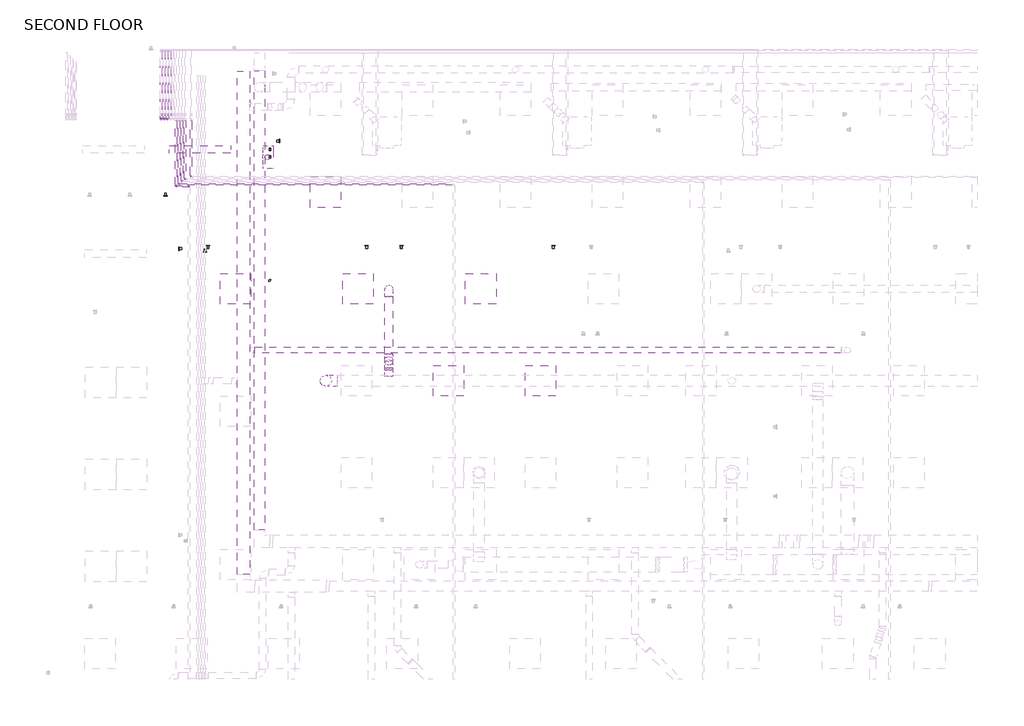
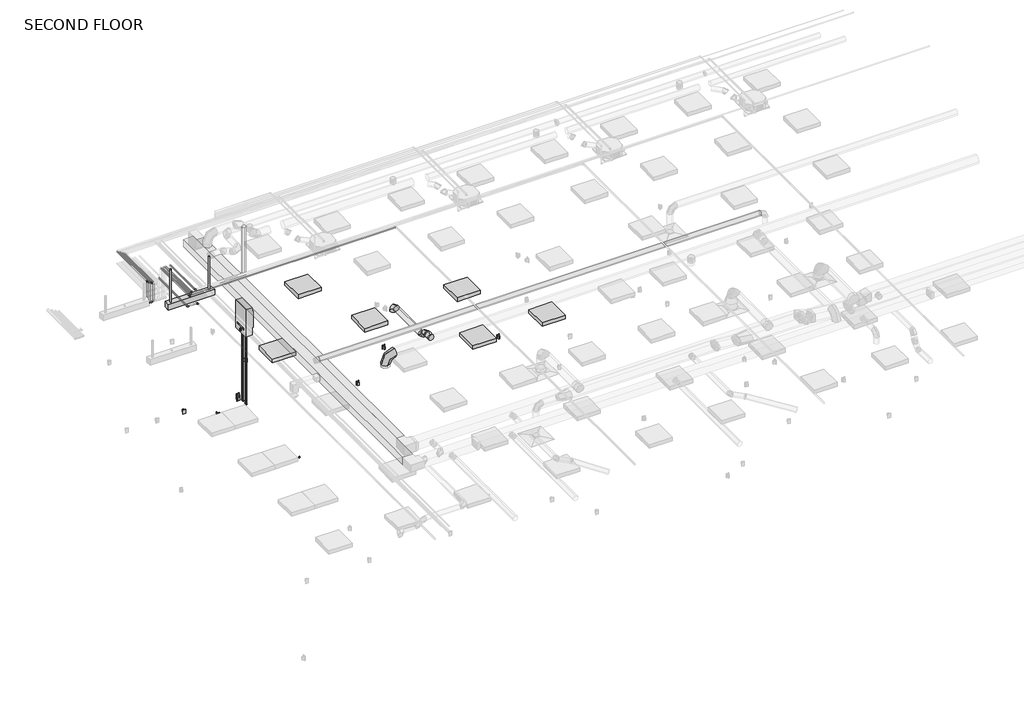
# One storey, part 7 of 12: 21 pipe segments, 15 pipe fittings, 8 duct segments, 7 light fixtures, 5 duct fittings, 5 proxies, 4 switching devices.
"""IFC4 building model written with IfcOpenShell, lengths in millimetres."""

from ifc_helpers import new_model, si_unit, point, frame, frame_2d, origin, place, context, project, spatial, polyline, circle_curve, trimmed, segment, composite_curve, outline, extrude, transform, mapped, element, save
from components import duplex_receptacle_countertop_10251bba, water_heater_tankless_0_6_gallon_c20ab9af, round_elbow_1_d_df495868, round_elbow_1_d_b37ad80b, round_elbow_1_d_9a27e954, round_takeoff_standard_533576aa, suspended_fluorescent_strip_non_hosted_strip_light_1x4_120v_f70b047a, troffer_corner_insert_2x2_3lamp_e67c7f8f, elbow_generic_standard_c06ac706, tee_generic_standard_c9cae54f, tee_generic_standard_d345b28c

model = new_model("IFC4")

# Units and contexts
model_context = context("Model", 3, world=origin())
ifc_project = project(units=[si_unit("LENGTHUNIT", "METRE", prefix="MILLI")], contexts=[model_context])

# Site, building, storey
site = spatial("IfcSite", under=ifc_project)
building = spatial("IfcBuilding", under=site)
storey = spatial("IfcBuildingStorey", under=building, Name="SECOND FLOOR", Elevation=34544.0)

# Proxies
placement = place(None, origin())
duplex_receptacle_countertop_shape = duplex_receptacle_countertop_10251bba(model_context)
element("IfcBuildingElementProxy", 1, Name="Duplex Receptacle : Standard", ObjectType="Duplex Receptacle : Standard", at=placement, inside=storey, context=model_context, shape_type="MappedRepresentation", body=[
    mapped(duplex_receptacle_countertop_shape, transform((-5631.4954607, 5845.9813735, 35001.2), x_axis=(0.0, 1.0, 0.0), y_axis=(0.0, 0.0, 1.0), z_axis=(1.0, 0.0, 0.0))),
])
element("IfcBuildingElementProxy", 2, Name="Duplex Receptacle : Standard", ObjectType="Duplex Receptacle : Standard", at=placement, inside=storey, context=model_context, shape_type="MappedRepresentation", body=[
    mapped(duplex_receptacle_countertop_shape, transform((-3895.4451899, 3763.3695005, 35001.2), x_axis=(-1.0, 0.0, 0.0), y_axis=(0.0, 0.0, 1.0), z_axis=(0.0, 1.0, 0.0))),
])
element("IfcBuildingElementProxy", 3, Name="Duplex Receptacle : Standard", ObjectType="Duplex Receptacle : Standard", at=placement, inside=storey, context=model_context, shape_type="MappedRepresentation", body=[
    mapped(duplex_receptacle_countertop_shape, transform((-183.4985856, 3763.3695005, 35001.2), x_axis=(-1.0, 0.0, 0.0), y_axis=(0.0, 0.0, 1.0), z_axis=(0.0, 1.0, 0.0))),
])
element("IfcBuildingElementProxy", 4, Name="Duplex Receptacle : Standard", ObjectType="Duplex Receptacle : Standard", at=placement, inside=storey, context=model_context, shape_type="MappedRepresentation", body=[
    mapped(duplex_receptacle_countertop_shape, transform((-7897.5005989, 4757.1445005, 35001.2), x_axis=(1.0, 0.0, 0.0), y_axis=(0.0, 0.0, 1.0), z_axis=(0.0, -1.0, 0.0))),
])
water_heater_tankless_0_6_gallon_shape = water_heater_tankless_0_6_gallon_c20ab9af(model_context)
element("IfcBuildingElementProxy", 5, Name="Water Heater - Tankless : 0.6 Gallon", ObjectType="Water Heater - Tankless : 0.6 Gallon", at=placement, inside=storey, context=model_context, shape_type="MappedRepresentation", body=[
    mapped(water_heater_tankless_0_6_gallon_shape, transform((-5755.3204607, 5529.8718518, 36068.0), x_axis=(0.0, -1.0, 0.0), y_axis=(0.0, 0.0, 1.0), z_axis=(-1.0, 0.0, 0.0))),
])

# Duct fittings
round_elbow_1_d_shape = round_elbow_1_d_df495868(model_context)
element("IfcDuctFitting", 6, ObjectType="Round Elbow : 1 D", at=placement, inside=storey, context=model_context, shape_type="MappedRepresentation", body=[
    mapped(round_elbow_1_d_shape, transform((-4708.3642107, 1077.3195005, 37693.6), x_axis=(0.0, 0.0, 1.0), y_axis=(1.0, 0.0, 0.0), z_axis=(0.0, 1.0, 0.0))),
])
round_elbow_1_d_2_shape = round_elbow_1_d_b37ad80b(model_context)
element("IfcDuctFitting", 7, ObjectType="Round Elbow : 1 D", at=placement, inside=storey, context=model_context, shape_type="MappedRepresentation", body=[
    mapped(round_elbow_1_d_2_shape, transform((-3456.6204607, 2906.1195005, 37541.2), x_axis=(0.0, 1.0, 0.0), y_axis=(0.0, 0.0, -1.0), z_axis=(-1.0, 0.0, 0.0))),
])
round_elbow_1_d_3_shape = round_elbow_1_d_9a27e954(model_context)
element("IfcDuctFitting", 8, ObjectType="Round Elbow : 1 D", at=placement, inside=storey, context=model_context, shape_type="MappedRepresentation", body=[
    mapped(round_elbow_1_d_3_shape, transform((-3456.6204607, 1395.5286193, 37693.6), x_axis=(0.0, 1.0, 0.0), y_axis=(0.0, 0.0, -1.0), z_axis=(-1.0, 0.0, 0.0))),
])
element("IfcDuctFitting", 9, ObjectType="Round Elbow : 1 D", at=placement, inside=storey, context=model_context, shape_type="MappedRepresentation", body=[
    mapped(round_elbow_1_d_3_shape, transform((-3456.6204607, 1547.9286193, 37541.2), x_axis=(0.0, 0.7071067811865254, -0.7071067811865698), y_axis=(0.0, 0.7071067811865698, 0.7071067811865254), z_axis=(1.0, 0.0, 0.0))),
])
round_takeoff_standard_shape = round_takeoff_standard_533576aa(model_context)
element("IfcDuctFitting", 10, ObjectType="Round Takeoff : Standard", at=placement, inside=storey, context=model_context, shape_type="MappedRepresentation", body=[
    mapped(round_takeoff_standard_shape, transform((-3456.6204607, 1191.6195005, 37693.6), x_axis=(0.0, 1.0, 0.0), y_axis=(1.0, 0.0, 0.0), z_axis=(0.0, 0.0, -1.0))),
])

# Duct segments
element("IfcDuctSegment", 11, ObjectType="Mitered Elbows / Taps", at=placement, inside=storey, context=model_context, shape_type="SweptSolid", body=[
    extrude(outline(polyline([(-6474.3126806, 7240.8083087), (-6220.3126806, 7240.8083087), (-6220.3126806, -2781.6706668), (-6474.3126806, -2781.6706668), (-6474.3126806, 7240.8083087)])), frame((0.0, 0.0, 37592.0), z_axis=(0.0, 0.0, 1.0), x_axis=(1.0, 0.0, 0.0)), (0.0, 0.0, 1.0), 203.2),
])
element("IfcDuctSegment", 12, ObjectType="Mitered Elbows / Taps", at=placement, inside=storey, context=model_context, shape_type="SweptSolid", body=[
    extrude(outline(polyline([(-5928.2204015, -1894.4804995), (-6131.4204015, -1894.4804995), (-6131.4204015, 7249.5195005), (-5928.2204015, 7249.5195005), (-5928.2204015, -1894.4804995)])), frame((0.0, 0.0, 37414.2), z_axis=(0.0, 0.0, 1.0), x_axis=(1.0, 0.0, 0.0)), (0.0, 0.0, 1.0), 254.0),
])
element("IfcDuctSegment", 13, ObjectType="Taps / Short Radius", at=placement, inside=storey, context=model_context, shape_type="SweptSolid", body=[
    extrude(outline(composite_curve([segment(trimmed(circle_curve(frame_2d((1686.9195005, 37693.6)), 63.5), [point((1623.4195005, 37693.6))], [point((1686.9195005, 37757.1))], False, "CARTESIAN"), True, "CONTINUOUS"), segment(trimmed(circle_curve(frame_2d((1686.9195005, 37693.6)), 63.5), [point((1686.9195005, 37757.1))], [point((1750.4195005, 37693.6))], False, "CARTESIAN"), True, "CONTINUOUS"), segment(trimmed(circle_curve(frame_2d((1686.9195005, 37693.6)), 63.5), [point((1750.4195005, 37693.6))], [point((1686.9195005, 37630.1))], False, "CARTESIAN"), True, "CONTINUOUS"), segment(trimmed(circle_curve(frame_2d((1686.9195005, 37693.6)), 63.5), [point((1686.9195005, 37630.1))], [point((1623.4195005, 37693.6))], False, "CARTESIAN"), True, "CONTINUOUS")], self_intersect=False)), frame((-6118.7126806, 0.0, 0.0), z_axis=(1.0, 0.0, 0.0), x_axis=(0.0, 1.0, 0.0)), (0.0, 0.0, 1.0), 11660.8359699),
])
element("IfcDuctSegment", 14, ObjectType="Taps / Short Radius", at=placement, inside=storey, context=model_context, shape_type="SweptSolid", body=[
    extrude(outline(composite_curve([segment(trimmed(circle_curve(frame_2d((-4708.3642107, 1077.3195005)), 114.3), [point((-4708.3642107, 963.0195005))], [point((-4822.6642107, 1077.3195005))], False, "CARTESIAN"), True, "CONTINUOUS"), segment(trimmed(circle_curve(frame_2d((-4708.3642107, 1077.3195005)), 114.3), [point((-4822.6642107, 1077.3195005))], [point((-4708.3642107, 1191.6195005))], False, "CARTESIAN"), True, "CONTINUOUS"), segment(trimmed(circle_curve(frame_2d((-4708.3642107, 1077.3195005)), 114.3), [point((-4708.3642107, 1191.6195005))], [point((-4594.0642107, 1077.3195005))], False, "CARTESIAN"), True, "CONTINUOUS"), segment(trimmed(circle_curve(frame_2d((-4708.3642107, 1077.3195005)), 114.3), [point((-4594.0642107, 1077.3195005))], [point((-4708.3642107, 963.0195005))], False, "CARTESIAN"), True, "CONTINUOUS")], self_intersect=False)), frame((0.0, 0.0, 37388.8), z_axis=(0.0, 0.0, 1.0), x_axis=(1.0, 0.0, 0.0)), (0.0, 0.0, 1.0), 76.2),
])
element("IfcDuctSegment", 15, ObjectType="Taps / Short Radius", at=placement, inside=storey, context=model_context, shape_type="SweptSolid", body=[
    extrude(outline(composite_curve([segment(trimmed(circle_curve(frame_2d((37541.2, -3456.6204607)), 76.2), [point((37541.2, -3380.4204607))], [point((37617.4, -3456.6204607))], False, "CARTESIAN"), True, "CONTINUOUS"), segment(trimmed(circle_curve(frame_2d((37541.2, -3456.6204607)), 76.2), [point((37617.4, -3456.6204607))], [point((37541.2, -3532.8204607))], False, "CARTESIAN"), True, "CONTINUOUS"), segment(trimmed(circle_curve(frame_2d((37541.2, -3456.6204607)), 76.2), [point((37541.2, -3532.8204607))], [point((37465.0, -3456.6204607))], False, "CARTESIAN"), True, "CONTINUOUS"), segment(trimmed(circle_curve(frame_2d((37541.2, -3456.6204607)), 76.2), [point((37465.0, -3456.6204607))], [point((37541.2, -3380.4204607))], False, "CARTESIAN"), True, "CONTINUOUS")], self_intersect=False)), frame((0.0, 1611.0547662, 0.0), z_axis=(0.0, 1.0, 0.0), x_axis=(0.0, 0.0, 1.0)), (0.0, 0.0, 1.0), 1142.6647343),
])
element("IfcDuctSegment", 16, ObjectType="Taps / Short Radius", at=placement, inside=storey, context=model_context, shape_type="SweptSolid", body=[
    extrude(outline(composite_curve([segment(trimmed(circle_curve(frame_2d((37693.6, -3456.6204607)), 76.2), [point((37693.6, -3380.4204607))], [point((37769.8, -3456.6204607))], False, "CARTESIAN"), True, "CONTINUOUS"), segment(trimmed(circle_curve(frame_2d((37693.6, -3456.6204607)), 76.2), [point((37769.8, -3456.6204607))], [point((37693.6, -3532.8204607))], False, "CARTESIAN"), True, "CONTINUOUS"), segment(trimmed(circle_curve(frame_2d((37693.6, -3456.6204607)), 76.2), [point((37693.6, -3532.8204607))], [point((37617.4, -3456.6204607))], False, "CARTESIAN"), True, "CONTINUOUS"), segment(trimmed(circle_curve(frame_2d((37693.6, -3456.6204607)), 76.2), [point((37617.4, -3456.6204607))], [point((37693.6, -3380.4204607))], False, "CARTESIAN"), True, "CONTINUOUS")], self_intersect=False)), frame((0.0, 1293.2195005, 0.0), z_axis=(0.0, 1.0, 0.0), x_axis=(0.0, 0.0, 1.0)), (0.0, 0.0, 1.0), 39.1829719),
])
element("IfcDuctSegment", 17, ObjectType="Taps / Short Radius", at=placement, inside=storey, context=model_context, shape_type="SweptSolid", body=[
    extrude(outline(composite_curve([segment(trimmed(circle_curve(frame_2d((0.0, -76.2000001)), 76.2), [point((76.2, -76.2000001))], [point((0.0, -152.4000001))], False, "CARTESIAN"), True, "CONTINUOUS"), segment(trimmed(circle_curve(frame_2d((0.0, -76.2000001)), 76.2), [point((0.0, -152.4000001))], [point((-76.2, -76.2000001))], False, "CARTESIAN"), True, "CONTINUOUS"), segment(trimmed(circle_curve(frame_2d((0.0, -76.2000001)), 76.2), [point((-76.2, -76.2000001))], [point((0.0, 0.0))], False, "CARTESIAN"), True, "CONTINUOUS"), segment(trimmed(circle_curve(frame_2d((0.0, -76.2000001)), 76.2), [point((0.0, 0.0))], [point((76.2, -76.2000001))], False, "CARTESIAN"), True, "CONTINUOUS")], self_intersect=False)), frame((-3456.6204607, 1557.1732295, 37639.7184633), z_axis=(0.0, -0.7071067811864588, 0.7071067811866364), x_axis=(1.0, 0.0, 0.0)), (0.0, 0.0, 1.0), 89.2738531),
])
element("IfcDuctSegment", 18, ObjectType="Taps / Short Radius", at=placement, inside=storey, context=model_context, shape_type="SweptSolid", body=[
    extrude(outline(composite_curve([segment(trimmed(circle_curve(frame_2d((-5869.6204607, 5529.8718518)), 50.8), [point((-5818.8204607, 5529.8718518))], [point((-5869.6204607, 5479.0718518))], False, "CARTESIAN"), True, "CONTINUOUS"), segment(trimmed(circle_curve(frame_2d((-5869.6204607, 5529.8718518)), 50.8), [point((-5869.6204607, 5479.0718518))], [point((-5920.4204607, 5529.8718518))], False, "CARTESIAN"), True, "CONTINUOUS"), segment(trimmed(circle_curve(frame_2d((-5869.6204607, 5529.8718518)), 50.8), [point((-5920.4204607, 5529.8718518))], [point((-5869.6204607, 5580.6718518))], False, "CARTESIAN"), True, "CONTINUOUS"), segment(trimmed(circle_curve(frame_2d((-5869.6204607, 5529.8718518)), 50.8), [point((-5869.6204607, 5580.6718518))], [point((-5818.8204607, 5529.8718518))], False, "CARTESIAN"), True, "CONTINUOUS")], self_intersect=False)), frame((0.0, 0.0, 36830.0), z_axis=(0.0, 0.0, 1.0), x_axis=(1.0, 0.0, 0.0)), (0.0, 0.0, 1.0), 2159.0),
])

# Light fixtures
suspended_fluorescent_strip_non_hosted_strip_light_1x4_120v_shape = suspended_fluorescent_strip_non_hosted_strip_light_1x4_120v_f70b047a(model_context)
element("IfcLightFixture", 19, ObjectType="Suspended Fluorescent Strip - Non-Hosted : Strip Light 1x4 - 120V Normal", at=placement, inside=storey, context=model_context, shape_type="MappedRepresentation", body=[
    mapped(suspended_fluorescent_strip_non_hosted_strip_light_1x4_120v_shape, transform((-7211.4888758, 5679.9210752, 37287.2), x_axis=(1.0, 0.0, 0.0), y_axis=(0.0, 1.0, 0.0), z_axis=(0.0, 0.0, 1.0))),
])
troffer_corner_insert_2x2_3lamp_shape = troffer_corner_insert_2x2_3lamp_e67c7f8f(model_context)
element("IfcLightFixture", 20, ObjectType="Troffer Corner Insert : 2x2 3Lamp", at=placement, inside=storey, context=model_context, shape_type="MappedRepresentation", body=[
    mapped(troffer_corner_insert_2x2_3lamp_shape, transform((-4717.0954607, 4830.1695005, 34848.8), x_axis=(1.0, 0.0, 0.0), y_axis=(0.0, 1.0, 0.0), z_axis=(0.0, 0.0, 1.0))),
])
element("IfcLightFixture", 21, ObjectType="Troffer Corner Insert : 2x2 3Lamp", at=placement, inside=storey, context=model_context, shape_type="MappedRepresentation", body=[
    mapped(troffer_corner_insert_2x2_3lamp_shape, transform((-6504.6204607, 2906.1195005, 34848.8), x_axis=(1.0, 0.0, 0.0), y_axis=(0.0, 1.0, 0.0), z_axis=(0.0, 0.0, 1.0))),
])
element("IfcLightFixture", 22, ObjectType="Troffer Corner Insert : 2x2 3Lamp", at=placement, inside=storey, context=model_context, shape_type="MappedRepresentation", body=[
    mapped(troffer_corner_insert_2x2_3lamp_shape, transform((-4066.2204607, 2906.1195005, 34848.8), x_axis=(1.0, 0.0, 0.0), y_axis=(0.0, 1.0, 0.0), z_axis=(0.0, 0.0, 1.0))),
])
element("IfcLightFixture", 23, ObjectType="Troffer Corner Insert : 2x2 3Lamp", at=placement, inside=storey, context=model_context, shape_type="MappedRepresentation", body=[
    mapped(troffer_corner_insert_2x2_3lamp_shape, transform((-1627.8204607, 2906.1195005, 34848.8), x_axis=(1.0, 0.0, 0.0), y_axis=(0.0, 1.0, 0.0), z_axis=(0.0, 0.0, 1.0))),
])
element("IfcLightFixture", 24, ObjectType="Troffer Corner Insert : 2x2 3Lamp", at=placement, inside=storey, context=model_context, shape_type="MappedRepresentation", body=[
    mapped(troffer_corner_insert_2x2_3lamp_shape, transform((-2269.9642107, 1077.3195005, 34848.8), x_axis=(1.0, 0.0, 0.0), y_axis=(0.0, 1.0, 0.0), z_axis=(0.0, 0.0, 1.0))),
])
element("IfcLightFixture", 25, ObjectType="Troffer Corner Insert : 2x2 3Lamp", at=placement, inside=storey, context=model_context, shape_type="MappedRepresentation", body=[
    mapped(troffer_corner_insert_2x2_3lamp_shape, transform((-441.1642107, 1077.3195005, 34848.8), x_axis=(1.0, 0.0, 0.0), y_axis=(0.0, 1.0, 0.0), z_axis=(0.0, 0.0, 1.0))),
])

# Pipe fittings
elbow_generic_standard_shape = elbow_generic_standard_c06ac706(model_context)
element("IfcPipeFitting", 26, ObjectType="Elbow - Generic : Standard", at=placement, inside=storey, context=model_context, shape_type="MappedRepresentation", body=[
    mapped(elbow_generic_standard_shape, transform((-7991.0790543, 6278.6701311, 37115.9125), x_axis=(0.0, -1.0, 0.0), y_axis=(0.0, 0.0, 1.0), z_axis=(-1.0, 0.0, 0.0))),
])
element("IfcPipeFitting", 27, ObjectType="Elbow - Generic : Standard", at=placement, inside=storey, context=model_context, shape_type="MappedRepresentation", body=[
    mapped(elbow_generic_standard_shape, transform((-7991.0790543, 6278.6701311, 37744.4), x_axis=(0.0, 0.0, 1.0), y_axis=(0.0, 1.0, 0.0), z_axis=(-1.0, 0.0, 0.0))),
])
element("IfcPipeFitting", 28, ObjectType="Elbow - Generic : Standard", at=placement, inside=storey, context=model_context, shape_type="MappedRepresentation", body=[
    mapped(elbow_generic_standard_shape, transform((-7931.0790543, 6278.6701311, 37115.9125), x_axis=(0.0, -1.0, 0.0), y_axis=(0.0, 0.0, 1.0), z_axis=(-1.0, 0.0, 0.0))),
])
element("IfcPipeFitting", 29, ObjectType="Elbow - Generic : Standard", at=placement, inside=storey, context=model_context, shape_type="MappedRepresentation", body=[
    mapped(elbow_generic_standard_shape, transform((-7931.0790543, 6278.6701311, 37706.3), x_axis=(0.0, 0.0, 1.0), y_axis=(0.0, 1.0, 0.0), z_axis=(-1.0, 0.0, 0.0))),
])
element("IfcPipeFitting", 30, ObjectType="Elbow - Generic : Standard", at=placement, inside=storey, context=model_context, shape_type="MappedRepresentation", body=[
    mapped(elbow_generic_standard_shape, transform((-7871.0790543, 6278.6701311, 37115.9125), x_axis=(0.0, -1.0, 0.0), y_axis=(0.0, 0.0, 1.0), z_axis=(-1.0, 0.0, 0.0))),
])
element("IfcPipeFitting", 31, ObjectType="Elbow - Generic : Standard", at=placement, inside=storey, context=model_context, shape_type="MappedRepresentation", body=[
    mapped(elbow_generic_standard_shape, transform((-7871.0790543, 6278.6701311, 37668.2), x_axis=(0.0, 0.0, 1.0), y_axis=(0.0, 1.0, 0.0), z_axis=(-1.0, 0.0, 0.0))),
])
element("IfcPipeFitting", 32, ObjectType="Elbow - Generic : Standard", at=placement, inside=storey, context=model_context, shape_type="MappedRepresentation", body=[
    mapped(elbow_generic_standard_shape, transform((-7691.0790543, 4946.3891003, 37744.4), x_axis=(0.0, -1.0, 0.0), y_axis=(1.0, 0.0, 0.0), z_axis=(0.0, 0.0, 1.0))),
])
element("IfcPipeFitting", 33, ObjectType="Elbow - Generic : Standard", at=placement, inside=storey, context=model_context, shape_type="MappedRepresentation", body=[
    mapped(elbow_generic_standard_shape, transform((-7430.4504607, 4946.3891003, 37744.4), x_axis=(0.0, 1.0, 0.0), y_axis=(-1.0, 0.0, 0.0), z_axis=(0.0, 0.0, 1.0))),
])
element("IfcPipeFitting", 34, ObjectType="Elbow - Generic : Standard", at=placement, inside=storey, context=model_context, shape_type="MappedRepresentation", body=[
    mapped(elbow_generic_standard_shape, transform((-7631.0790543, 4983.2701311, 37998.4), x_axis=(0.0, -1.0, 0.0), y_axis=(1.0, 0.0, 0.0), z_axis=(0.0, 0.0, 1.0))),
])
element("IfcPipeFitting", 35, ObjectType="Elbow - Generic : Standard", at=placement, inside=storey, context=model_context, shape_type="MappedRepresentation", body=[
    mapped(elbow_generic_standard_shape, transform((-7571.0790543, 5034.0701311, 37998.4), x_axis=(0.0, -1.0, 0.0), y_axis=(1.0, 0.0, 0.0), z_axis=(0.0, 0.0, 1.0))),
])
element("IfcPipeFitting", 36, ObjectType="Elbow - Generic : Standard", at=placement, inside=storey, context=model_context, shape_type="MappedRepresentation", body=[
    mapped(elbow_generic_standard_shape, transform((-7511.0790543, 5084.8701311, 37998.4), x_axis=(0.0, -1.0, 0.0), y_axis=(1.0, 0.0, 0.0), z_axis=(0.0, 0.0, 1.0))),
])
element("IfcPipeFitting", 37, ObjectType="Elbow - Generic : Standard", at=placement, inside=storey, context=model_context, shape_type="MappedRepresentation", body=[
    mapped(elbow_generic_standard_shape, transform((-7391.0790543, 5135.6701311, 37998.4), x_axis=(0.0, -1.0, 0.0), y_axis=(1.0, 0.0, 0.0), z_axis=(0.0, 0.0, 1.0))),
])
element("IfcPipeFitting", 38, ObjectType="Elbow - Generic : Standard", at=placement, inside=storey, context=model_context, shape_type="MappedRepresentation", body=[
    mapped(elbow_generic_standard_shape, transform((-5818.8204607, 3066.0718518, 34023.3), x_axis=(1.0, 0.0, 0.0), y_axis=(0.0, 1.0, 0.0), z_axis=(0.0, 0.0, 1.0))),
])
tee_generic_standard_shape = tee_generic_standard_c9cae54f(model_context)
element("IfcPipeFitting", 39, ObjectType="Tee - Generic : Standard", at=placement, inside=storey, context=model_context, shape_type="MappedRepresentation", body=[
    mapped(tee_generic_standard_shape, transform((-5818.8204607, 5682.2718518, 34023.2996974), x_axis=(0.0, -0.9999999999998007, -6.315318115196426e-07), y_axis=(0.0, 6.315318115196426e-07, -0.9999999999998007), z_axis=(1.0, 0.0, 0.0))),
])
tee_generic_standard_2_shape = tee_generic_standard_d345b28c(model_context)
element("IfcPipeFitting", 40, ObjectType="Tee - Generic : Standard", at=placement, inside=storey, context=model_context, shape_type="MappedRepresentation", body=[
    mapped(tee_generic_standard_2_shape, transform((-5818.8204607, 5529.8718518, 34023.3), x_axis=(0.0, 1.0, 0.0), y_axis=(0.0, 0.0, -1.0), z_axis=(-1.0, 0.0, 0.0))),
])

# Pipe segments
element("IfcPipeSegment", 41, ObjectType="Copper Tubing", at=placement, inside=storey, context=model_context, shape_type="SweptSolid", body=[
    extrude(outline(composite_curve([segment(trimmed(circle_curve(frame_2d((37115.9125, -7991.0790543)), 14.2875), [point((37115.9125, -8005.3665543))], [point((37101.625, -7991.0790543))], False, "CARTESIAN"), True, "CONTINUOUS"), segment(trimmed(circle_curve(frame_2d((37115.9125, -7991.0790543)), 14.2875), [point((37101.625, -7991.0790543))], [point((37115.9125, -7976.7915543))], False, "CARTESIAN"), True, "CONTINUOUS"), segment(trimmed(circle_curve(frame_2d((37115.9125, -7991.0790543)), 14.2875), [point((37115.9125, -7976.7915543))], [point((37130.2, -7991.0790543))], False, "CARTESIAN"), True, "CONTINUOUS"), segment(trimmed(circle_curve(frame_2d((37115.9125, -7991.0790543)), 14.2875), [point((37130.2, -7991.0790543))], [point((37115.9125, -8005.3665543))], False, "CARTESIAN"), True, "CONTINUOUS")], self_intersect=False)), frame((0.0, 6299.3076311, 0.0), z_axis=(0.0, 1.0, 0.0), x_axis=(0.0, 0.0, 1.0)), (0.0, 0.0, 1.0), 101.5999898),
])
element("IfcPipeSegment", 42, ObjectType="Copper Tubing", at=placement, inside=storey, context=model_context, shape_type="SweptSolid", body=[
    extrude(outline(composite_curve([segment(trimmed(circle_curve(frame_2d((-7991.0790543, 6278.6701311)), 14.2875), [point((-8005.3665543, 6278.6701311))], [point((-7991.0790543, 6292.9576311))], False, "CARTESIAN"), True, "CONTINUOUS"), segment(trimmed(circle_curve(frame_2d((-7991.0790543, 6278.6701311)), 14.2875), [point((-7991.0790543, 6292.9576311))], [point((-7976.7915543, 6278.6701311))], False, "CARTESIAN"), True, "CONTINUOUS"), segment(trimmed(circle_curve(frame_2d((-7991.0790543, 6278.6701311)), 14.2875), [point((-7976.7915543, 6278.6701311))], [point((-7991.0790543, 6264.3826311))], False, "CARTESIAN"), True, "CONTINUOUS"), segment(trimmed(circle_curve(frame_2d((-7991.0790543, 6278.6701311)), 14.2875), [point((-7991.0790543, 6264.3826311))], [point((-8005.3665543, 6278.6701311))], False, "CARTESIAN"), True, "CONTINUOUS")], self_intersect=False)), frame((0.0, 0.0, 37136.55), z_axis=(0.0, 0.0, 1.0), x_axis=(1.0, 0.0, 0.0)), (0.0, 0.0, 1.0), 587.2125),
])
element("IfcPipeSegment", 43, ObjectType="Copper Tubing", at=placement, inside=storey, context=model_context, shape_type="SweptSolid", body=[
    extrude(outline(composite_curve([segment(trimmed(circle_curve(frame_2d((37744.4, -7991.0790543)), 14.2875), [point((37744.4, -7976.7915543))], [point((37758.6875, -7991.0790543))], False, "CARTESIAN"), True, "CONTINUOUS"), segment(trimmed(circle_curve(frame_2d((37744.4, -7991.0790543)), 14.2875), [point((37758.6875, -7991.0790543))], [point((37744.4, -8005.3665543))], False, "CARTESIAN"), True, "CONTINUOUS"), segment(trimmed(circle_curve(frame_2d((37744.4, -7991.0790543)), 14.2875), [point((37744.4, -8005.3665543))], [point((37730.1125, -7991.0790543))], False, "CARTESIAN"), True, "CONTINUOUS"), segment(trimmed(circle_curve(frame_2d((37744.4, -7991.0790543)), 14.2875), [point((37730.1125, -7991.0790543))], [point((37744.4, -7976.7915543))], False, "CARTESIAN"), True, "CONTINUOUS")], self_intersect=False)), frame((0.0, 6299.3076311, 0.0), z_axis=(0.0, 1.0, 0.0), x_axis=(0.0, 0.0, 1.0)), (0.0, 0.0, 1.0), 1343.9118694),
])
element("IfcPipeSegment", 44, ObjectType="Copper Tubing", at=placement, inside=storey, context=model_context, shape_type="SweptSolid", body=[
    extrude(outline(composite_curve([segment(trimmed(circle_curve(frame_2d((37115.9125, -7931.0790543)), 14.2875), [point((37115.9125, -7945.3665543))], [point((37101.625, -7931.0790543))], False, "CARTESIAN"), True, "CONTINUOUS"), segment(trimmed(circle_curve(frame_2d((37115.9125, -7931.0790543)), 14.2875), [point((37101.625, -7931.0790543))], [point((37115.9125, -7916.7915543))], False, "CARTESIAN"), True, "CONTINUOUS"), segment(trimmed(circle_curve(frame_2d((37115.9125, -7931.0790543)), 14.2875), [point((37115.9125, -7916.7915543))], [point((37130.2, -7931.0790543))], False, "CARTESIAN"), True, "CONTINUOUS"), segment(trimmed(circle_curve(frame_2d((37115.9125, -7931.0790543)), 14.2875), [point((37130.2, -7931.0790543))], [point((37115.9125, -7945.3665543))], False, "CARTESIAN"), True, "CONTINUOUS")], self_intersect=False)), frame((0.0, 6299.3076311, 0.0), z_axis=(0.0, 1.0, 0.0), x_axis=(0.0, 0.0, 1.0)), (0.0, 0.0, 1.0), 101.5999898),
])
element("IfcPipeSegment", 45, ObjectType="Copper Tubing", at=placement, inside=storey, context=model_context, shape_type="SweptSolid", body=[
    extrude(outline(composite_curve([segment(trimmed(circle_curve(frame_2d((-7931.0790543, 6278.6701311)), 14.2875), [point((-7945.3665543, 6278.6701311))], [point((-7931.0790543, 6292.9576311))], False, "CARTESIAN"), True, "CONTINUOUS"), segment(trimmed(circle_curve(frame_2d((-7931.0790543, 6278.6701311)), 14.2875), [point((-7931.0790543, 6292.9576311))], [point((-7916.7915543, 6278.6701311))], False, "CARTESIAN"), True, "CONTINUOUS"), segment(trimmed(circle_curve(frame_2d((-7931.0790543, 6278.6701311)), 14.2875), [point((-7916.7915543, 6278.6701311))], [point((-7931.0790543, 6264.3826311))], False, "CARTESIAN"), True, "CONTINUOUS"), segment(trimmed(circle_curve(frame_2d((-7931.0790543, 6278.6701311)), 14.2875), [point((-7931.0790543, 6264.3826311))], [point((-7945.3665543, 6278.6701311))], False, "CARTESIAN"), True, "CONTINUOUS")], self_intersect=False)), frame((0.0, 0.0, 37136.55), z_axis=(0.0, 0.0, 1.0), x_axis=(1.0, 0.0, 0.0)), (0.0, 0.0, 1.0), 549.1125),
])
element("IfcPipeSegment", 46, ObjectType="Copper Tubing", at=placement, inside=storey, context=model_context, shape_type="SweptSolid", body=[
    extrude(outline(composite_curve([segment(trimmed(circle_curve(frame_2d((37706.3, -7931.0790543)), 14.2875), [point((37706.3, -7916.7915543))], [point((37720.5875, -7931.0790543))], False, "CARTESIAN"), True, "CONTINUOUS"), segment(trimmed(circle_curve(frame_2d((37706.3, -7931.0790543)), 14.2875), [point((37720.5875, -7931.0790543))], [point((37706.3, -7945.3665543))], False, "CARTESIAN"), True, "CONTINUOUS"), segment(trimmed(circle_curve(frame_2d((37706.3, -7931.0790543)), 14.2875), [point((37706.3, -7945.3665543))], [point((37692.0125, -7931.0790543))], False, "CARTESIAN"), True, "CONTINUOUS"), segment(trimmed(circle_curve(frame_2d((37706.3, -7931.0790543)), 14.2875), [point((37692.0125, -7931.0790543))], [point((37706.3, -7916.7915543))], False, "CARTESIAN"), True, "CONTINUOUS")], self_intersect=False)), frame((0.0, 6299.3076311, 0.0), z_axis=(0.0, 1.0, 0.0), x_axis=(0.0, 0.0, 1.0)), (0.0, 0.0, 1.0), 1343.9118694),
])
element("IfcPipeSegment", 47, ObjectType="Copper Tubing", at=placement, inside=storey, context=model_context, shape_type="SweptSolid", body=[
    extrude(outline(composite_curve([segment(trimmed(circle_curve(frame_2d((37115.9125, -7871.0790543)), 14.2875), [point((37115.9125, -7885.3665543))], [point((37101.625, -7871.0790543))], False, "CARTESIAN"), True, "CONTINUOUS"), segment(trimmed(circle_curve(frame_2d((37115.9125, -7871.0790543)), 14.2875), [point((37101.625, -7871.0790543))], [point((37115.9125, -7856.7915543))], False, "CARTESIAN"), True, "CONTINUOUS"), segment(trimmed(circle_curve(frame_2d((37115.9125, -7871.0790543)), 14.2875), [point((37115.9125, -7856.7915543))], [point((37130.2, -7871.0790543))], False, "CARTESIAN"), True, "CONTINUOUS"), segment(trimmed(circle_curve(frame_2d((37115.9125, -7871.0790543)), 14.2875), [point((37130.2, -7871.0790543))], [point((37115.9125, -7885.3665543))], False, "CARTESIAN"), True, "CONTINUOUS")], self_intersect=False)), frame((0.0, 6299.3076311, 0.0), z_axis=(0.0, 1.0, 0.0), x_axis=(0.0, 0.0, 1.0)), (0.0, 0.0, 1.0), 101.5999898),
])
element("IfcPipeSegment", 48, ObjectType="Copper Tubing", at=placement, inside=storey, context=model_context, shape_type="SweptSolid", body=[
    extrude(outline(composite_curve([segment(trimmed(circle_curve(frame_2d((-7871.0790543, 6278.6701311)), 14.2875), [point((-7885.3665543, 6278.6701311))], [point((-7871.0790543, 6292.9576311))], False, "CARTESIAN"), True, "CONTINUOUS"), segment(trimmed(circle_curve(frame_2d((-7871.0790543, 6278.6701311)), 14.2875), [point((-7871.0790543, 6292.9576311))], [point((-7856.7915543, 6278.6701311))], False, "CARTESIAN"), True, "CONTINUOUS"), segment(trimmed(circle_curve(frame_2d((-7871.0790543, 6278.6701311)), 14.2875), [point((-7856.7915543, 6278.6701311))], [point((-7871.0790543, 6264.3826311))], False, "CARTESIAN"), True, "CONTINUOUS"), segment(trimmed(circle_curve(frame_2d((-7871.0790543, 6278.6701311)), 14.2875), [point((-7871.0790543, 6264.3826311))], [point((-7885.3665543, 6278.6701311))], False, "CARTESIAN"), True, "CONTINUOUS")], self_intersect=False)), frame((0.0, 0.0, 37136.55), z_axis=(0.0, 0.0, 1.0), x_axis=(1.0, 0.0, 0.0)), (0.0, 0.0, 1.0), 511.0125),
])
element("IfcPipeSegment", 49, ObjectType="Copper Tubing", at=placement, inside=storey, context=model_context, shape_type="SweptSolid", body=[
    extrude(outline(composite_curve([segment(trimmed(circle_curve(frame_2d((37668.2, -7871.0790543)), 14.2875), [point((37668.2, -7856.7915543))], [point((37682.4875, -7871.0790543))], False, "CARTESIAN"), True, "CONTINUOUS"), segment(trimmed(circle_curve(frame_2d((37668.2, -7871.0790543)), 14.2875), [point((37682.4875, -7871.0790543))], [point((37668.2, -7885.3665543))], False, "CARTESIAN"), True, "CONTINUOUS"), segment(trimmed(circle_curve(frame_2d((37668.2, -7871.0790543)), 14.2875), [point((37668.2, -7885.3665543))], [point((37653.9125, -7871.0790543))], False, "CARTESIAN"), True, "CONTINUOUS"), segment(trimmed(circle_curve(frame_2d((37668.2, -7871.0790543)), 14.2875), [point((37653.9125, -7871.0790543))], [point((37668.2, -7856.7915543))], False, "CARTESIAN"), True, "CONTINUOUS")], self_intersect=False)), frame((0.0, 6299.3076311, 0.0), z_axis=(0.0, 1.0, 0.0), x_axis=(0.0, 0.0, 1.0)), (0.0, 0.0, 1.0), 1343.9118694),
])
element("IfcPipeSegment", 50, ObjectType="Copper Tubing", at=placement, inside=storey, context=model_context, shape_type="SweptSolid", body=[
    extrude(outline(composite_curve([segment(trimmed(circle_curve(frame_2d((37115.9125, -7811.0790543)), 14.2875), [point((37115.9125, -7825.3665543))], [point((37101.625, -7811.0790543))], False, "CARTESIAN"), True, "CONTINUOUS"), segment(trimmed(circle_curve(frame_2d((37115.9125, -7811.0790543)), 14.2875), [point((37101.625, -7811.0790543))], [point((37115.9125, -7796.7915543))], False, "CARTESIAN"), True, "CONTINUOUS"), segment(trimmed(circle_curve(frame_2d((37115.9125, -7811.0790543)), 14.2875), [point((37115.9125, -7796.7915543))], [point((37130.2, -7811.0790543))], False, "CARTESIAN"), True, "CONTINUOUS"), segment(trimmed(circle_curve(frame_2d((37115.9125, -7811.0790543)), 14.2875), [point((37130.2, -7811.0790543))], [point((37115.9125, -7825.3665543))], False, "CARTESIAN"), True, "CONTINUOUS")], self_intersect=False)), frame((0.0, 6299.3076311, 0.0), z_axis=(0.0, 1.0, 0.0), x_axis=(0.0, 0.0, 1.0)), (0.0, 0.0, 1.0), 101.5999898),
])
element("IfcPipeSegment", 51, ObjectType="Copper Tubing", at=placement, inside=storey, context=model_context, shape_type="SweptSolid", body=[
    extrude(outline(composite_curve([segment(trimmed(circle_curve(frame_2d((-7811.0790543, 6278.6701311)), 14.2875), [point((-7825.3665543, 6278.6701311))], [point((-7811.0790543, 6292.9576311))], False, "CARTESIAN"), True, "CONTINUOUS"), segment(trimmed(circle_curve(frame_2d((-7811.0790543, 6278.6701311)), 14.2875), [point((-7811.0790543, 6292.9576311))], [point((-7796.7915543, 6278.6701311))], False, "CARTESIAN"), True, "CONTINUOUS"), segment(trimmed(circle_curve(frame_2d((-7811.0790543, 6278.6701311)), 14.2875), [point((-7796.7915543, 6278.6701311))], [point((-7811.0790543, 6264.3826311))], False, "CARTESIAN"), True, "CONTINUOUS"), segment(trimmed(circle_curve(frame_2d((-7811.0790543, 6278.6701311)), 14.2875), [point((-7811.0790543, 6264.3826311))], [point((-7825.3665543, 6278.6701311))], False, "CARTESIAN"), True, "CONTINUOUS")], self_intersect=False)), frame((0.0, 0.0, 37136.55), z_axis=(0.0, 0.0, 1.0), x_axis=(1.0, 0.0, 0.0)), (0.0, 0.0, 1.0), 472.9125),
])
element("IfcPipeSegment", 52, ObjectType="Copper Tubing", at=placement, inside=storey, context=model_context, shape_type="SweptSolid", body=[
    extrude(outline(composite_curve([segment(trimmed(circle_curve(frame_2d((37630.1, -7811.0790543)), 14.2875), [point((37630.1, -7796.7915543))], [point((37644.3875, -7811.0790543))], False, "CARTESIAN"), True, "CONTINUOUS"), segment(trimmed(circle_curve(frame_2d((37630.1, -7811.0790543)), 14.2875), [point((37644.3875, -7811.0790543))], [point((37630.1, -7825.3665543))], False, "CARTESIAN"), True, "CONTINUOUS"), segment(trimmed(circle_curve(frame_2d((37630.1, -7811.0790543)), 14.2875), [point((37630.1, -7825.3665543))], [point((37615.8125, -7811.0790543))], False, "CARTESIAN"), True, "CONTINUOUS"), segment(trimmed(circle_curve(frame_2d((37630.1, -7811.0790543)), 14.2875), [point((37615.8125, -7811.0790543))], [point((37630.1, -7796.7915543))], False, "CARTESIAN"), True, "CONTINUOUS")], self_intersect=False)), frame((0.0, 6299.3076311, 0.0), z_axis=(0.0, 1.0, 0.0), x_axis=(0.0, 0.0, 1.0)), (0.0, 0.0, 1.0), 1343.9118694),
])
element("IfcPipeSegment", 53, ObjectType="Copper Tubing", at=placement, inside=storey, context=model_context, shape_type="SweptSolid", body=[
    extrude(outline(composite_curve([segment(trimmed(circle_curve(frame_2d((37744.4, -7691.0790543)), 14.2875), [point((37744.4, -7705.3665543))], [point((37730.1125, -7691.0790543))], False, "CARTESIAN"), True, "CONTINUOUS"), segment(trimmed(circle_curve(frame_2d((37744.4, -7691.0790543)), 14.2875), [point((37730.1125, -7691.0790543))], [point((37744.4, -7676.7915543))], False, "CARTESIAN"), True, "CONTINUOUS"), segment(trimmed(circle_curve(frame_2d((37744.4, -7691.0790543)), 14.2875), [point((37744.4, -7676.7915543))], [point((37758.6875, -7691.0790543))], False, "CARTESIAN"), True, "CONTINUOUS"), segment(trimmed(circle_curve(frame_2d((37744.4, -7691.0790543)), 14.2875), [point((37758.6875, -7691.0790543))], [point((37744.4, -7705.3665543))], False, "CARTESIAN"), True, "CONTINUOUS")], self_intersect=False)), frame((0.0, 4967.0266003, 0.0), z_axis=(0.0, 1.0, 0.0), x_axis=(0.0, 0.0, 1.0)), (0.0, 0.0, 1.0), 1291.0060308),
])
element("IfcPipeSegment", 54, ObjectType="Copper Tubing", at=placement, inside=storey, context=model_context, shape_type="SweptSolid", body=[
    extrude(outline(composite_curve([segment(trimmed(circle_curve(frame_2d((4946.3891003, 37744.4)), 14.2875), [point((4932.1016003, 37744.4))], [point((4946.3891003, 37758.6875))], False, "CARTESIAN"), True, "CONTINUOUS"), segment(trimmed(circle_curve(frame_2d((4946.3891003, 37744.4)), 14.2875), [point((4946.3891003, 37758.6875))], [point((4960.6766003, 37744.4))], False, "CARTESIAN"), True, "CONTINUOUS"), segment(trimmed(circle_curve(frame_2d((4946.3891003, 37744.4)), 14.2875), [point((4960.6766003, 37744.4))], [point((4946.3891003, 37730.1125))], False, "CARTESIAN"), True, "CONTINUOUS"), segment(trimmed(circle_curve(frame_2d((4946.3891003, 37744.4)), 14.2875), [point((4946.3891003, 37730.1125))], [point((4932.1016003, 37744.4))], False, "CARTESIAN"), True, "CONTINUOUS")], self_intersect=False)), frame((-7670.4415543, 0.0, 0.0), z_axis=(1.0, 0.0, 0.0), x_axis=(0.0, 1.0, 0.0)), (0.0, 0.0, 1.0), 219.3535936),
])
element("IfcPipeSegment", 55, ObjectType="Copper Tubing", at=placement, inside=storey, context=model_context, shape_type="SweptSolid", body=[
    extrude(outline(composite_curve([segment(trimmed(circle_curve(frame_2d((37998.4, -7631.0790543)), 14.2875), [point((37998.4, -7645.3665543))], [point((37984.1125, -7631.0790543))], False, "CARTESIAN"), True, "CONTINUOUS"), segment(trimmed(circle_curve(frame_2d((37998.4, -7631.0790543)), 14.2875), [point((37984.1125, -7631.0790543))], [point((37998.4, -7616.7915543))], False, "CARTESIAN"), True, "CONTINUOUS"), segment(trimmed(circle_curve(frame_2d((37998.4, -7631.0790543)), 14.2875), [point((37998.4, -7616.7915543))], [point((38012.6875, -7631.0790543))], False, "CARTESIAN"), True, "CONTINUOUS"), segment(trimmed(circle_curve(frame_2d((37998.4, -7631.0790543)), 14.2875), [point((38012.6875, -7631.0790543))], [point((37998.4, -7645.3665543))], False, "CARTESIAN"), True, "CONTINUOUS")], self_intersect=False)), frame((0.0, 5003.9076311, 0.0), z_axis=(0.0, 1.0, 0.0), x_axis=(0.0, 0.0, 1.0)), (0.0, 0.0, 1.0), 1254.125),
])
element("IfcPipeSegment", 56, ObjectType="Copper Tubing", at=placement, inside=storey, context=model_context, shape_type="SweptSolid", body=[
    extrude(outline(composite_curve([segment(trimmed(circle_curve(frame_2d((4983.2701311, 37998.4)), 14.2875), [point((4968.9826311, 37998.4))], [point((4983.2701311, 38012.6875))], False, "CARTESIAN"), True, "CONTINUOUS"), segment(trimmed(circle_curve(frame_2d((4983.2701311, 37998.4)), 14.2875), [point((4983.2701311, 38012.6875))], [point((4997.5576311, 37998.4))], False, "CARTESIAN"), True, "CONTINUOUS"), segment(trimmed(circle_curve(frame_2d((4983.2701311, 37998.4)), 14.2875), [point((4997.5576311, 37998.4))], [point((4983.2701311, 37984.1125))], False, "CARTESIAN"), True, "CONTINUOUS"), segment(trimmed(circle_curve(frame_2d((4983.2701311, 37998.4)), 14.2875), [point((4983.2701311, 37984.1125))], [point((4968.9826311, 37998.4))], False, "CARTESIAN"), True, "CONTINUOUS")], self_intersect=False)), frame((-7610.4415543, 0.0, 0.0), z_axis=(1.0, 0.0, 0.0), x_axis=(0.0, 1.0, 0.0)), (0.0, 0.0, 1.0), 5426.8373436),
])
element("IfcPipeSegment", 57, ObjectType="Copper Tubing", at=placement, inside=storey, context=model_context, shape_type="SweptSolid", body=[
    extrude(outline(composite_curve([segment(trimmed(circle_curve(frame_2d((37998.4, -7571.0790543)), 14.2875), [point((37998.4, -7585.3665543))], [point((37984.1125, -7571.0790543))], False, "CARTESIAN"), True, "CONTINUOUS"), segment(trimmed(circle_curve(frame_2d((37998.4, -7571.0790543)), 14.2875), [point((37984.1125, -7571.0790543))], [point((37998.4, -7556.7915543))], False, "CARTESIAN"), True, "CONTINUOUS"), segment(trimmed(circle_curve(frame_2d((37998.4, -7571.0790543)), 14.2875), [point((37998.4, -7556.7915543))], [point((38012.6875, -7571.0790543))], False, "CARTESIAN"), True, "CONTINUOUS"), segment(trimmed(circle_curve(frame_2d((37998.4, -7571.0790543)), 14.2875), [point((38012.6875, -7571.0790543))], [point((37998.4, -7585.3665543))], False, "CARTESIAN"), True, "CONTINUOUS")], self_intersect=False)), frame((0.0, 5054.7076311, 0.0), z_axis=(0.0, 1.0, 0.0), x_axis=(0.0, 0.0, 1.0)), (0.0, 0.0, 1.0), 1203.325),
])
element("IfcPipeSegment", 58, ObjectType="Copper Tubing", at=placement, inside=storey, context=model_context, shape_type="SweptSolid", body=[
    extrude(outline(composite_curve([segment(trimmed(circle_curve(frame_2d((37998.4, -7511.0790543)), 14.2875), [point((37998.4, -7525.3665543))], [point((37984.1125, -7511.0790543))], False, "CARTESIAN"), True, "CONTINUOUS"), segment(trimmed(circle_curve(frame_2d((37998.4, -7511.0790543)), 14.2875), [point((37984.1125, -7511.0790543))], [point((37998.4, -7496.7915543))], False, "CARTESIAN"), True, "CONTINUOUS"), segment(trimmed(circle_curve(frame_2d((37998.4, -7511.0790543)), 14.2875), [point((37998.4, -7496.7915543))], [point((38012.6875, -7511.0790543))], False, "CARTESIAN"), True, "CONTINUOUS"), segment(trimmed(circle_curve(frame_2d((37998.4, -7511.0790543)), 14.2875), [point((38012.6875, -7511.0790543))], [point((37998.4, -7525.3665543))], False, "CARTESIAN"), True, "CONTINUOUS")], self_intersect=False)), frame((0.0, 5105.5076311, 0.0), z_axis=(0.0, 1.0, 0.0), x_axis=(0.0, 0.0, 1.0)), (0.0, 0.0, 1.0), 1152.525),
])
element("IfcPipeSegment", 59, ObjectType="Copper Tubing", at=placement, inside=storey, context=model_context, shape_type="SweptSolid", body=[
    extrude(outline(composite_curve([segment(trimmed(circle_curve(frame_2d((37998.4, -7391.0790543)), 14.2875), [point((37998.4, -7405.3665543))], [point((37984.1125, -7391.0790543))], False, "CARTESIAN"), True, "CONTINUOUS"), segment(trimmed(circle_curve(frame_2d((37998.4, -7391.0790543)), 14.2875), [point((37984.1125, -7391.0790543))], [point((37998.4, -7376.7915543))], False, "CARTESIAN"), True, "CONTINUOUS"), segment(trimmed(circle_curve(frame_2d((37998.4, -7391.0790543)), 14.2875), [point((37998.4, -7376.7915543))], [point((38012.6875, -7391.0790543))], False, "CARTESIAN"), True, "CONTINUOUS"), segment(trimmed(circle_curve(frame_2d((37998.4, -7391.0790543)), 14.2875), [point((38012.6875, -7391.0790543))], [point((37998.4, -7405.3665543))], False, "CARTESIAN"), True, "CONTINUOUS")], self_intersect=False)), frame((0.0, 5156.3076311, 0.0), z_axis=(0.0, 1.0, 0.0), x_axis=(0.0, 0.0, 1.0)), (0.0, 0.0, 1.0), 1101.725),
])
element("IfcPipeSegment", 60, ObjectType="Copper Tubing", at=placement, inside=storey, context=model_context, shape_type="SweptSolid", body=[
    extrude(outline(composite_curve([segment(trimmed(circle_curve(frame_2d((-5818.8204607, 5529.8718518)), 14.2875), [point((-5833.1079607, 5529.8718518))], [point((-5818.8204607, 5544.1593518))], False, "CARTESIAN"), True, "CONTINUOUS"), segment(trimmed(circle_curve(frame_2d((-5818.8204607, 5529.8718518)), 14.2875), [point((-5818.8204607, 5544.1593518))], [point((-5804.5329607, 5529.8718518))], False, "CARTESIAN"), True, "CONTINUOUS"), segment(trimmed(circle_curve(frame_2d((-5818.8204607, 5529.8718518)), 14.2875), [point((-5804.5329607, 5529.8718518))], [point((-5818.8204607, 5515.5843518))], False, "CARTESIAN"), True, "CONTINUOUS"), segment(trimmed(circle_curve(frame_2d((-5818.8204607, 5529.8718518)), 14.2875), [point((-5818.8204607, 5515.5843518))], [point((-5833.1079607, 5529.8718518))], False, "CARTESIAN"), True, "CONTINUOUS")], self_intersect=False)), frame((0.0, 0.0, 34050.2875), z_axis=(0.0, 0.0, 1.0), x_axis=(1.0, 0.0, 0.0)), (0.0, 0.0, 1.0), 1992.3125),
])
element("IfcPipeSegment", 61, ObjectType="Copper Tubing", at=placement, inside=storey, context=model_context, shape_type="SweptSolid", body=[
    extrude(outline(composite_curve([segment(trimmed(circle_curve(frame_2d((-5818.8204607, 5682.2718518)), 14.2875), [point((-5833.1079607, 5682.2718518))], [point((-5818.8204607, 5696.5593518))], False, "CARTESIAN"), True, "CONTINUOUS"), segment(trimmed(circle_curve(frame_2d((-5818.8204607, 5682.2718518)), 14.2875), [point((-5818.8204607, 5696.5593518))], [point((-5804.5329607, 5682.2718518))], False, "CARTESIAN"), True, "CONTINUOUS"), segment(trimmed(circle_curve(frame_2d((-5818.8204607, 5682.2718518)), 14.2875), [point((-5804.5329607, 5682.2718518))], [point((-5818.8204607, 5667.9843518))], False, "CARTESIAN"), True, "CONTINUOUS"), segment(trimmed(circle_curve(frame_2d((-5818.8204607, 5682.2718518)), 14.2875), [point((-5818.8204607, 5667.9843518))], [point((-5833.1079607, 5682.2718518))], False, "CARTESIAN"), True, "CONTINUOUS")], self_intersect=False)), frame((0.0, 0.0, 34050.2871974), z_axis=(0.0, 0.0, 1.0), x_axis=(1.0, 0.0, 0.0)), (0.0, 0.0, 1.0), 1992.3128026),
])

# Switching devices
element("IfcSwitchingDevice", 62, ObjectType="Lighting Switches : Single Pole", at=placement, inside=storey, context=model_context, shape_type="MappedRepresentation", body=[
    mapped(duplex_receptacle_countertop_shape, transform((-3205.9042468, 3763.3695005, 35763.2), x_axis=(-1.0, 0.0, 0.0), y_axis=(0.0, 0.0, 1.0), z_axis=(0.0, 1.0, 0.0))),
])
element("IfcSwitchingDevice", 63, ObjectType="Lighting Switches : Single Pole", at=placement, inside=storey, context=model_context, shape_type="MappedRepresentation", body=[
    mapped(duplex_receptacle_countertop_shape, transform((-7625.3954607, 3705.9317418, 35458.4), x_axis=(0.0, -1.0, 0.0), y_axis=(0.0, 0.0, 1.0), z_axis=(-1.0, 0.0, 0.0))),
])
element("IfcSwitchingDevice", 64, ObjectType="Lighting Switches : Single Pole", at=placement, inside=storey, context=model_context, shape_type="MappedRepresentation", body=[
    mapped(duplex_receptacle_countertop_shape, transform((-7053.2538317, 3763.3695005, 35763.2), x_axis=(-1.0, 0.0, 0.0), y_axis=(0.0, 0.0, 1.0), z_axis=(0.0, 1.0, 0.0))),
])
element("IfcSwitchingDevice", 65, ObjectType="Lighting Switches : Three Way", at=placement, inside=storey, context=model_context, shape_type="MappedRepresentation", body=[
    mapped(duplex_receptacle_countertop_shape, transform((-7111.5470072, 3639.5445005, 35763.2), x_axis=(1.0, 0.0, 0.0), y_axis=(0.0, 0.0, 1.0), z_axis=(0.0, -1.0, 0.0))),
])

save(model, "model.ifc")
